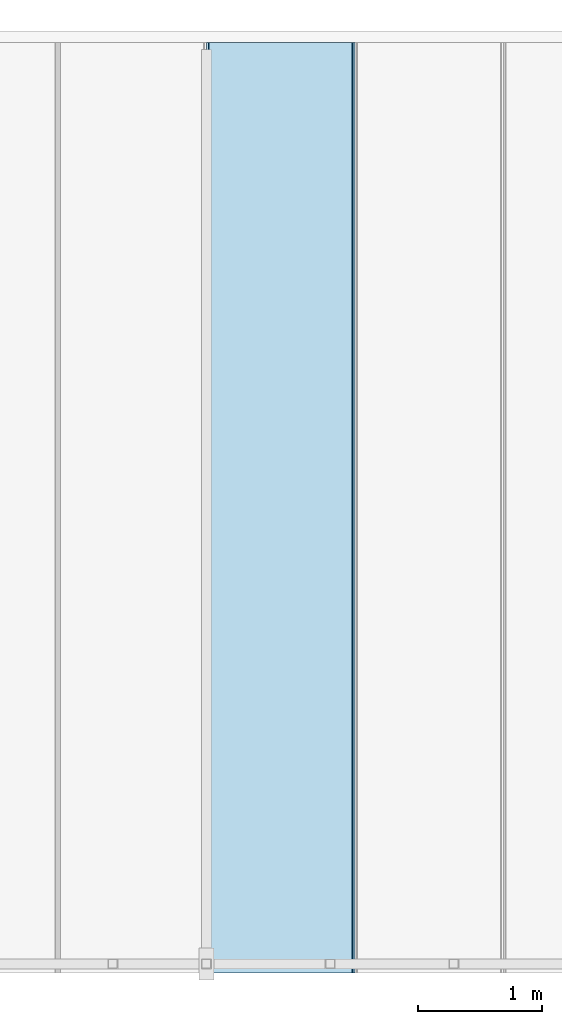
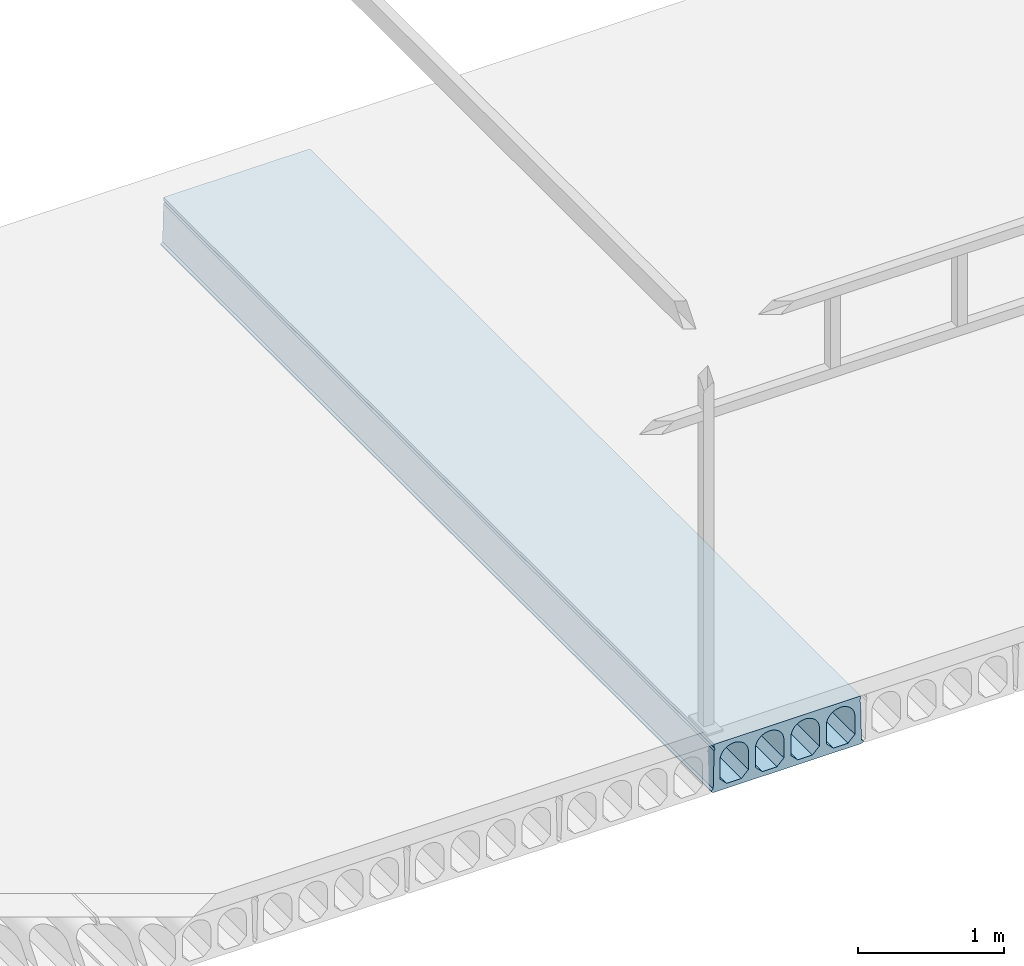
# One storey, part 11 of 20: 1 slab.
"""IFC2X3 building model written with IfcOpenShell, lengths in millimetres."""

from ifc_helpers import new_model, entity, si_unit, converted_unit, derived_unit, direction, frame, origin_with_axes, place, context, subcontext, project, spatial, faceted_brep, type_object, element, save


model = new_model("IFC2X3")

# Units and contexts
model_context = context("Model", 3, precision=0.01, world=frame((0.0, 4.29681676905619e-09, 0.0)), true_north=direction((4.01073788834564e-13, 1.0)))
plan_context = context("Plan", 3, precision=0.01, world=frame((0.0, 4.29681676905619e-09, 0.0)), true_north=direction((4.01073788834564e-13, 1.0)))
body_context = subcontext(model_context, "Body", "Model", "MODEL_VIEW")
ifc_project = project(units=[converted_unit("PLANEANGLEUNIT", "DEGREE", entity("IfcPositiveLengthMeasure", 0.0174532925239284), si_unit("PLANEANGLEUNIT", "RADIAN"), dimensions=[0, 0, 0, 0, 0, 0, 0]), si_unit("AREAUNIT", "SQUARE_METRE"), si_unit("LENGTHUNIT", "METRE", prefix="MILLI"), si_unit("MASSUNIT", "GRAM", prefix="KILO"), si_unit("POWERUNIT", "WATT"), si_unit("PRESSUREUNIT", "PASCAL", prefix="KILO"), si_unit("FORCEUNIT", "NEWTON", prefix="KILO"), si_unit("ELECTRICVOLTAGEUNIT", "VOLT"), si_unit("ELECTRICCURRENTUNIT", "AMPERE"), si_unit("THERMODYNAMICTEMPERATUREUNIT", "DEGREE_CELSIUS"), si_unit("TIMEUNIT", "SECOND"), si_unit("VOLUMEUNIT", "CUBIC_METRE"), derived_unit("LINEARVELOCITYUNIT", [(si_unit("LENGTHUNIT", "METRE"), 1), (si_unit("TIMEUNIT", "SECOND"), -1)]), derived_unit("VOLUMETRICFLOWRATEUNIT", [(si_unit("VOLUMEUNIT", "CUBIC_METRE"), 1), (si_unit("TIMEUNIT", "SECOND"), -1)]), derived_unit("THERMALTRANSMITTANCEUNIT", [(si_unit("POWERUNIT", "WATT"), 1), (si_unit("THERMODYNAMICTEMPERATUREUNIT", "KELVIN"), -1), (si_unit("AREAUNIT", "SQUARE_METRE"), -1)]), derived_unit("SOUNDPRESSUREUNIT", [(si_unit("PRESSUREUNIT", "PASCAL"), 1)])], contexts=[model_context, plan_context])

# Site, building, storey
site_placement = place(None, frame((0.0, -4.29681676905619e-09, 0.0), z_axis=(0.0, 0.0, 1.0), x_axis=(1.0, 0.0, 0.0)))
site = spatial("IfcSite", under=ifc_project, at=site_placement, Name="Gardermoen", CompositionType="ELEMENT")
building_placement = place(site_placement, frame((0.0, 4.29681676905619e-09, 0.0), z_axis=(0.0, 0.0, 1.0), x_axis=(1.0, 0.0, 0.0)))
building = spatial("IfcBuilding", under=site, at=building_placement, Name="TS", CompositionType="ELEMENT")
storey_placement = place(building_placement, origin_with_axes())
storey = spatial("IfcBuildingStorey", under=building, at=storey_placement, Name="D", CompositionType="ELEMENT", Elevation=0.0)

# Slab
slab_type = type_object("IfcSlabType", Name="HD400", PredefinedType="NOTDEFINED")
slab_placement = place(storey_placement, frame((601599.999766, 396739.995625, 203600.0), z_axis=(0.0, 0.0, 1.0), x_axis=(0.0, 1.0, 0.0)))
element("IfcSlab", 1, at=slab_placement, inside=storey, type_object=slab_type, Name="HULLDEKKE", ObjectType="HD400", PredefinedType="FLOOR", context=body_context, shape_type="Brep", body=[
    faceted_brep([(996.504375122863, 600.0, -180.0), (996.504375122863, 600.0, -190.0), (8520.0, 600.0, -190.0), (8520.0, 600.0, -180.0), (996.504375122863, 585.0, -170.0), (8520.0, 585.0, -170.0), (996.504375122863, 577.5, 145.0), (8520.0, 577.5, 145.0), (996.504375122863, 570.0, 160.0), (8520.0, 570.0, 160.0), (996.504375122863, 577.5, 175.0), (8520.0, 577.5, 175.0), (996.504375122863, 577.5, 200.0), (8520.0, 577.5, 200.0), (996.504375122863, -577.5, 200.0), (8520.0, -577.5, 200.0), (996.504375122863, -577.5, 175.0), (8520.0, -577.5, 175.0), (996.504375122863, -570.0, 160.0), (8520.0, -570.0, 160.0), (996.504375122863, -577.5, 145.0), (8520.0, -577.5, 145.0), (996.504375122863, -585.0, -170.0), (8520.0, -585.0, -170.0), (996.504375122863, -600.0, -180.0), (8520.0, -600.0, -180.0), (996.504375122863, -600.0, -190.0), (8520.0, -600.0, -190.0), (996.504375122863, -583.380004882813, -200.0), (8520.0, -583.380004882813, -200.0), (996.504375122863, 583.380004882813, -200.0), (8520.0, 583.380004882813, -200.0), (996.504375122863, -477.5, -160.0), (996.504375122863, -362.5, -160.0), (8520.0, -362.5, -160.0), (8520.0, -477.5, -160.0), (996.504375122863, -532.5, -105.0), (8520.0, -532.5, -105.0), (996.504375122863, -532.5, 47.5), (8520.0, -532.5, 47.5), (996.504375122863, -532.115755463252, 56.7901763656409), (8520.0, -532.115755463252, 56.7901763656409), (996.504375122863, -530.965646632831, 66.0168914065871), (8520.0, -530.965646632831, 66.0168914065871), (996.504375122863, -529.057529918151, 75.1171173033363), (8520.0, -529.057529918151, 75.1171173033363), (996.504375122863, -526.404439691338, 84.028690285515), (8520.0, -526.404439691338, 84.028690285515), (996.504375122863, -523.024499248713, 92.6907352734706), (8520.0, -523.024499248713, 92.6907352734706), (996.504375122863, -518.940797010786, 101.044081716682), (8520.0, -518.940797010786, 101.044081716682), (996.504375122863, -514.181228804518, 109.031667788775), (8520.0, -514.181228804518, 109.031667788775), (996.504375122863, -508.778307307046, 116.598930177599), (8520.0, -508.778307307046, 116.598930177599), (996.504375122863, -502.768939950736, 123.694176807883), (8520.0, -502.768939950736, 123.694176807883), (996.504375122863, -496.194176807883, 130.268939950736), (8520.0, -496.194176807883, 130.268939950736), (996.504375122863, -489.098930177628, 136.278307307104), (8520.0, -489.098930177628, 136.278307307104), (996.504375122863, -481.531667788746, 141.681228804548), (8520.0, -481.531667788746, 141.681228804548), (996.504375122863, -473.544081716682, 146.440797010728), (8520.0, -473.544081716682, 146.440797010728), (996.504375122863, -465.190735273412, 150.524499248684), (8520.0, -465.190735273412, 150.524499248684), (996.504375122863, -456.528690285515, 153.904439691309), (8520.0, -456.528690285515, 153.904439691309), (996.504375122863, -447.617117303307, 156.55752991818), (8520.0, -447.617117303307, 156.55752991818), (996.504375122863, -438.516891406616, 158.465646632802), (8520.0, -438.516891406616, 158.465646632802), (996.504375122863, -429.290176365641, 159.615755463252), (8520.0, -429.290176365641, 159.615755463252), (996.504375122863, -420.0, 160.0), (8520.0, -420.0, 160.0), (996.504375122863, -410.709823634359, 159.615755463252), (8520.0, -410.709823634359, 159.615755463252), (996.504375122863, -401.483108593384, 158.465646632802), (8520.0, -401.483108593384, 158.465646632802), (996.504375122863, -392.382882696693, 156.55752991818), (8520.0, -392.382882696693, 156.55752991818), (996.504375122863, -383.471309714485, 153.904439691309), (8520.0, -383.471309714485, 153.904439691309), (996.504375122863, -374.809264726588, 150.524499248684), (8520.0, -374.809264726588, 150.524499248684), (996.504375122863, -366.455918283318, 146.440797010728), (8520.0, -366.455918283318, 146.440797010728), (996.504375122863, -358.468332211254, 141.681228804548), (8520.0, -358.468332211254, 141.681228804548), (996.504375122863, -350.901069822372, 136.278307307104), (8520.0, -350.901069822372, 136.278307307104), (996.504375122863, -343.805823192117, 130.268939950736), (8520.0, -343.805823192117, 130.268939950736), (996.504375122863, -337.231060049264, 123.694176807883), (8520.0, -337.231060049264, 123.694176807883), (996.504375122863, -331.221692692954, 116.598930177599), (8520.0, -331.221692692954, 116.598930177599), (996.504375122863, -325.818771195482, 109.031667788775), (8520.0, -325.818771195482, 109.031667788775), (996.504375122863, -321.059202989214, 101.044081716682), (8520.0, -321.059202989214, 101.044081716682), (996.504375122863, -316.975500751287, 92.6907352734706), (8520.0, -316.975500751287, 92.6907352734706), (996.504375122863, -313.595560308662, 84.028690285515), (8520.0, -313.595560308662, 84.028690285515), (996.504375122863, -310.942470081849, 75.1171173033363), (8520.0, -310.942470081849, 75.1171173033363), (996.504375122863, -309.034353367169, 66.0168914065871), (8520.0, -309.034353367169, 66.0168914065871), (996.504375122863, -307.884244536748, 56.7901763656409), (8520.0, -307.884244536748, 56.7901763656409), (996.504375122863, -307.5, 47.5), (8520.0, -307.5, 47.5), (996.504375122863, -307.5, -105.0), (8520.0, -307.5, -105.0), (996.504375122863, -197.5, -160.0), (996.504375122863, -82.5, -160.0), (8520.0, -82.5, -160.0), (8520.0, -197.5, -160.0), (996.504375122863, -252.5, -105.0), (8520.0, -252.5, -105.0), (996.504375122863, -252.5, 47.5), (8520.0, -252.5, 47.5), (996.504375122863, -252.115755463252, 56.7901763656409), (8520.0, -252.115755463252, 56.7901763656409), (996.504375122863, -250.965646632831, 66.0168914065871), (8520.0, -250.965646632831, 66.0168914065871), (996.504375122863, -249.057529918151, 75.1171173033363), (8520.0, -249.057529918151, 75.1171173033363), (996.504375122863, -246.404439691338, 84.028690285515), (8520.0, -246.404439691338, 84.028690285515), (996.504375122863, -243.024499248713, 92.6907352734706), (8520.0, -243.024499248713, 92.6907352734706), (996.504375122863, -238.940797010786, 101.044081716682), (8520.0, -238.940797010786, 101.044081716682), (996.504375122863, -234.181228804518, 109.031667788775), (8520.0, -234.181228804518, 109.031667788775), (996.504375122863, -228.778307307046, 116.598930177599), (8520.0, -228.778307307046, 116.598930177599), (996.504375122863, -222.768939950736, 123.694176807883), (8520.0, -222.768939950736, 123.694176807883), (996.504375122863, -216.194176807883, 130.268939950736), (8520.0, -216.194176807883, 130.268939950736), (996.504375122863, -209.098930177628, 136.278307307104), (8520.0, -209.098930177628, 136.278307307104), (996.504375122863, -201.531667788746, 141.681228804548), (8520.0, -201.531667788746, 141.681228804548), (996.504375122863, -193.544081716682, 146.440797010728), (8520.0, -193.544081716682, 146.440797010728), (996.504375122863, -185.190735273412, 150.524499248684), (8520.0, -185.190735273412, 150.524499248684), (996.504375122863, -176.528690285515, 153.904439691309), (8520.0, -176.528690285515, 153.904439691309), (996.504375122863, -167.617117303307, 156.55752991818), (8520.0, -167.617117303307, 156.55752991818), (996.504375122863, -158.516891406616, 158.465646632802), (8520.0, -158.516891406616, 158.465646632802), (996.504375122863, -149.290176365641, 159.615755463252), (8520.0, -149.290176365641, 159.615755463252), (996.504375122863, -140.0, 160.0), (8520.0, -140.0, 160.0), (996.504375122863, -130.709823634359, 159.615755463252), (8520.0, -130.709823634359, 159.615755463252), (996.504375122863, -121.483108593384, 158.465646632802), (8520.0, -121.483108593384, 158.465646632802), (996.504375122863, -112.382882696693, 156.55752991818), (8520.0, -112.382882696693, 156.55752991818), (996.504375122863, -103.471309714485, 153.904439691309), (8520.0, -103.471309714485, 153.904439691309), (996.504375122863, -94.8092647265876, 150.524499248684), (8520.0, -94.8092647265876, 150.524499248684), (996.504375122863, -86.4559182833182, 146.440797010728), (8520.0, -86.4559182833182, 146.440797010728), (996.504375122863, -78.4683322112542, 141.681228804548), (8520.0, -78.4683322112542, 141.681228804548), (996.504375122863, -70.9010698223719, 136.278307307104), (8520.0, -70.9010698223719, 136.278307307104), (996.504375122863, -63.8058231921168, 130.268939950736), (8520.0, -63.8058231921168, 130.268939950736), (996.504375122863, -57.2310600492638, 123.694176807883), (8520.0, -57.2310600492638, 123.694176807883), (996.504375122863, -51.2216926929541, 116.598930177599), (8520.0, -51.2216926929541, 116.598930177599), (996.504375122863, -45.8187711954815, 109.031667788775), (8520.0, -45.8187711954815, 109.031667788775), (996.504375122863, -41.0592029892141, 101.044081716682), (8520.0, -41.0592029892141, 101.044081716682), (996.504375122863, -36.9755007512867, 92.6907352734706), (8520.0, -36.9755007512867, 92.6907352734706), (996.504375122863, -33.5955603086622, 84.028690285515), (8520.0, -33.5955603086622, 84.028690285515), (996.504375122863, -30.942470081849, 75.1171173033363), (8520.0, -30.942470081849, 75.1171173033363), (996.504375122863, -29.0343533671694, 66.0168914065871), (8520.0, -29.0343533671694, 66.0168914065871), (996.504375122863, -27.8842445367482, 56.7901763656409), (8520.0, -27.8842445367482, 56.7901763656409), (996.504375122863, -27.5, 47.5), (8520.0, -27.5, 47.5), (996.504375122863, -27.5, -105.0), (8520.0, -27.5, -105.0), (996.504375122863, 82.5, -160.0), (996.504375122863, 197.5, -160.0), (8520.0, 197.5, -160.0), (8520.0, 82.5, -160.0), (996.504375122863, 27.5, -105.0), (8520.0, 27.5, -105.0), (996.504375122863, 27.5, 47.5), (8520.0, 27.5, 47.5), (996.504375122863, 27.8842445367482, 56.7901763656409), (8520.0, 27.8842445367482, 56.7901763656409), (996.504375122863, 29.0343533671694, 66.0168914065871), (8520.0, 29.0343533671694, 66.0168914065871), (996.504375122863, 30.942470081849, 75.1171173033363), (8520.0, 30.942470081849, 75.1171173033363), (996.504375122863, 33.5955603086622, 84.028690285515), (8520.0, 33.5955603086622, 84.028690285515), (996.504375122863, 36.9755007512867, 92.6907352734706), (8520.0, 36.9755007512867, 92.6907352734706), (996.504375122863, 41.0592029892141, 101.044081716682), (8520.0, 41.0592029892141, 101.044081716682), (996.504375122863, 45.8187711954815, 109.031667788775), (8520.0, 45.8187711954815, 109.031667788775), (996.504375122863, 51.2216926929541, 116.598930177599), (8520.0, 51.2216926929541, 116.598930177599), (996.504375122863, 57.2310600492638, 123.694176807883), (8520.0, 57.2310600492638, 123.694176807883), (996.504375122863, 63.8058231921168, 130.268939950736), (8520.0, 63.8058231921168, 130.268939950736), (996.504375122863, 70.9010698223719, 136.278307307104), (8520.0, 70.9010698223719, 136.278307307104), (996.504375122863, 78.4683322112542, 141.681228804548), (8520.0, 78.4683322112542, 141.681228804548), (996.504375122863, 86.4559182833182, 146.440797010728), (8520.0, 86.4559182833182, 146.440797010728), (996.504375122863, 94.8092647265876, 150.524499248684), (8520.0, 94.8092647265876, 150.524499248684), (996.504375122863, 103.471309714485, 153.904439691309), (8520.0, 103.471309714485, 153.904439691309), (996.504375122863, 112.382882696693, 156.55752991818), (8520.0, 112.382882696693, 156.55752991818), (996.504375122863, 121.483108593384, 158.465646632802), (8520.0, 121.483108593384, 158.465646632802), (996.504375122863, 130.709823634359, 159.615755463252), (8520.0, 130.709823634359, 159.615755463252), (996.504375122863, 140.0, 160.0), (8520.0, 140.0, 160.0), (996.504375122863, 149.290176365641, 159.615755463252), (8520.0, 149.290176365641, 159.615755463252), (996.504375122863, 158.516891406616, 158.465646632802), (8520.0, 158.516891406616, 158.465646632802), (996.504375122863, 167.617117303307, 156.55752991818), (8520.0, 167.617117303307, 156.55752991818), (996.504375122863, 176.528690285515, 153.904439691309), (8520.0, 176.528690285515, 153.904439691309), (996.504375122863, 185.190735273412, 150.524499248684), (8520.0, 185.190735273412, 150.524499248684), (996.504375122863, 193.544081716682, 146.440797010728), (8520.0, 193.544081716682, 146.440797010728), (996.504375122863, 201.531667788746, 141.681228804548), (8520.0, 201.531667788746, 141.681228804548), (996.504375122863, 209.098930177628, 136.278307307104), (8520.0, 209.098930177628, 136.278307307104), (996.504375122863, 216.194176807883, 130.268939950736), (8520.0, 216.194176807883, 130.268939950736), (996.504375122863, 222.768939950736, 123.694176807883), (8520.0, 222.768939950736, 123.694176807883), (996.504375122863, 228.778307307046, 116.598930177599), (8520.0, 228.778307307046, 116.598930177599), (996.504375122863, 234.181228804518, 109.031667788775), (8520.0, 234.181228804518, 109.031667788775), (996.504375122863, 238.940797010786, 101.044081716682), (8520.0, 238.940797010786, 101.044081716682), (996.504375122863, 243.024499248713, 92.6907352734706), (8520.0, 243.024499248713, 92.6907352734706), (996.504375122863, 246.404439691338, 84.028690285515), (8520.0, 246.404439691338, 84.028690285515), (996.504375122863, 249.057529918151, 75.1171173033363), (8520.0, 249.057529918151, 75.1171173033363), (996.504375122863, 250.965646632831, 66.0168914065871), (8520.0, 250.965646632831, 66.0168914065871), (996.504375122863, 252.115755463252, 56.7901763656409), (8520.0, 252.115755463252, 56.7901763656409), (996.504375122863, 252.5, 47.5), (8520.0, 252.5, 47.5), (996.504375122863, 252.5, -105.0), (8520.0, 252.5, -105.0), (996.504375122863, 362.5, -160.0), (996.504375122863, 477.5, -160.0), (8520.0, 477.5, -160.0), (8520.0, 362.5, -160.0), (996.504375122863, 307.5, -105.0), (8520.0, 307.5, -105.0), (996.504375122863, 307.5, 47.5), (8520.0, 307.5, 47.5), (996.504375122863, 307.884244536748, 56.7901763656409), (8520.0, 307.884244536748, 56.7901763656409), (996.504375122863, 309.034353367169, 66.0168914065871), (8520.0, 309.034353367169, 66.0168914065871), (996.504375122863, 310.942470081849, 75.1171173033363), (8520.0, 310.942470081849, 75.1171173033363), (996.504375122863, 313.595560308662, 84.028690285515), (8520.0, 313.595560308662, 84.028690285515), (996.504375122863, 316.975500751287, 92.6907352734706), (8520.0, 316.975500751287, 92.6907352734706), (996.504375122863, 321.059202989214, 101.044081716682), (8520.0, 321.059202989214, 101.044081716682), (996.504375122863, 325.818771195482, 109.031667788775), (8520.0, 325.818771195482, 109.031667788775), (996.504375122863, 331.221692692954, 116.598930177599), (8520.0, 331.221692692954, 116.598930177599), (996.504375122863, 337.231060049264, 123.694176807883), (8520.0, 337.231060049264, 123.694176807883), (996.504375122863, 343.805823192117, 130.268939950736), (8520.0, 343.805823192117, 130.268939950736), (996.504375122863, 350.901069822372, 136.278307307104), (8520.0, 350.901069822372, 136.278307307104), (996.504375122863, 358.468332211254, 141.681228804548), (8520.0, 358.468332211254, 141.681228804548), (996.504375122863, 366.455918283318, 146.440797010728), (8520.0, 366.455918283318, 146.440797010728), (996.504375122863, 374.809264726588, 150.524499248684), (8520.0, 374.809264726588, 150.524499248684), (996.504375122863, 383.471309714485, 153.904439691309), (8520.0, 383.471309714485, 153.904439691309), (996.504375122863, 392.382882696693, 156.55752991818), (8520.0, 392.382882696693, 156.55752991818), (996.504375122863, 401.483108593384, 158.465646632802), (8520.0, 401.483108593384, 158.465646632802), (996.504375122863, 410.709823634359, 159.615755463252), (8520.0, 410.709823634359, 159.615755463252), (996.504375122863, 420.0, 160.0), (8520.0, 420.0, 160.0), (996.504375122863, 429.290176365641, 159.615755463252), (8520.0, 429.290176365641, 159.615755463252), (996.504375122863, 438.516891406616, 158.465646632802), (8520.0, 438.516891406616, 158.465646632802), (996.504375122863, 447.617117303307, 156.55752991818), (8520.0, 447.617117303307, 156.55752991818), (996.504375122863, 456.528690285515, 153.904439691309), (8520.0, 456.528690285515, 153.904439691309), (996.504375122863, 465.190735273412, 150.524499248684), (8520.0, 465.190735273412, 150.524499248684), (996.504375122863, 473.544081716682, 146.440797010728), (8520.0, 473.544081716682, 146.440797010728), (996.504375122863, 481.531667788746, 141.681228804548), (8520.0, 481.531667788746, 141.681228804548), (996.504375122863, 489.098930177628, 136.278307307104), (8520.0, 489.098930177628, 136.278307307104), (996.504375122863, 496.194176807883, 130.268939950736), (8520.0, 496.194176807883, 130.268939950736), (996.504375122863, 502.768939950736, 123.694176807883), (8520.0, 502.768939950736, 123.694176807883), (996.504375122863, 508.778307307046, 116.598930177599), (8520.0, 508.778307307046, 116.598930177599), (996.504375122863, 514.181228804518, 109.031667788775), (8520.0, 514.181228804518, 109.031667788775), (996.504375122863, 518.940797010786, 101.044081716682), (8520.0, 518.940797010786, 101.044081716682), (996.504375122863, 523.024499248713, 92.6907352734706), (8520.0, 523.024499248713, 92.6907352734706), (996.504375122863, 526.404439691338, 84.028690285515), (8520.0, 526.404439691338, 84.028690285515), (996.504375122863, 529.057529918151, 75.1171173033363), (8520.0, 529.057529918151, 75.1171173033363), (996.504375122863, 530.965646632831, 66.0168914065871), (8520.0, 530.965646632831, 66.0168914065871), (996.504375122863, 532.115755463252, 56.7901763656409), (8520.0, 532.115755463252, 56.7901763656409), (996.504375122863, 532.5, 47.5), (8520.0, 532.5, 47.5), (996.504375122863, 532.5, -105.0), (8520.0, 532.5, -105.0)], [[[0, 1, 2, 3]], [[4, 0, 3, 5]], [[6, 4, 5, 7]], [[8, 6, 7, 9]], [[10, 8, 9, 11]], [[12, 10, 11, 13]], [[14, 12, 13, 15]], [[16, 14, 15, 17]], [[18, 16, 17, 19]], [[20, 18, 19, 21]], [[22, 20, 21, 23]], [[24, 22, 23, 25]], [[26, 24, 25, 27]], [[28, 26, 27, 29]], [[30, 28, 29, 31]], [[1, 30, 31, 2]], [[32, 33, 34, 35]], [[36, 32, 35, 37]], [[38, 36, 37, 39]], [[40, 38, 39, 41]], [[42, 40, 41, 43]], [[44, 42, 43, 45]], [[46, 44, 45, 47]], [[48, 46, 47, 49]], [[50, 48, 49, 51]], [[52, 50, 51, 53]], [[54, 52, 53, 55]], [[56, 54, 55, 57]], [[58, 56, 57, 59]], [[60, 58, 59, 61]], [[62, 60, 61, 63]], [[64, 62, 63, 65]], [[66, 64, 65, 67]], [[68, 66, 67, 69]], [[70, 68, 69, 71]], [[72, 70, 71, 73]], [[74, 72, 73, 75]], [[76, 74, 75, 77]], [[78, 76, 77, 79]], [[80, 78, 79, 81]], [[82, 80, 81, 83]], [[84, 82, 83, 85]], [[86, 84, 85, 87]], [[88, 86, 87, 89]], [[90, 88, 89, 91]], [[92, 90, 91, 93]], [[94, 92, 93, 95]], [[96, 94, 95, 97]], [[98, 96, 97, 99]], [[100, 98, 99, 101]], [[102, 100, 101, 103]], [[104, 102, 103, 105]], [[106, 104, 105, 107]], [[108, 106, 107, 109]], [[110, 108, 109, 111]], [[112, 110, 111, 113]], [[114, 112, 113, 115]], [[116, 114, 115, 117]], [[33, 116, 117, 34]], [[118, 119, 120, 121]], [[122, 118, 121, 123]], [[124, 122, 123, 125]], [[126, 124, 125, 127]], [[128, 126, 127, 129]], [[130, 128, 129, 131]], [[132, 130, 131, 133]], [[134, 132, 133, 135]], [[136, 134, 135, 137]], [[138, 136, 137, 139]], [[140, 138, 139, 141]], [[142, 140, 141, 143]], [[144, 142, 143, 145]], [[146, 144, 145, 147]], [[148, 146, 147, 149]], [[150, 148, 149, 151]], [[152, 150, 151, 153]], [[154, 152, 153, 155]], [[156, 154, 155, 157]], [[158, 156, 157, 159]], [[160, 158, 159, 161]], [[162, 160, 161, 163]], [[164, 162, 163, 165]], [[166, 164, 165, 167]], [[168, 166, 167, 169]], [[170, 168, 169, 171]], [[172, 170, 171, 173]], [[174, 172, 173, 175]], [[176, 174, 175, 177]], [[178, 176, 177, 179]], [[180, 178, 179, 181]], [[182, 180, 181, 183]], [[184, 182, 183, 185]], [[186, 184, 185, 187]], [[188, 186, 187, 189]], [[190, 188, 189, 191]], [[192, 190, 191, 193]], [[194, 192, 193, 195]], [[196, 194, 195, 197]], [[198, 196, 197, 199]], [[200, 198, 199, 201]], [[202, 200, 201, 203]], [[119, 202, 203, 120]], [[204, 205, 206, 207]], [[208, 204, 207, 209]], [[210, 208, 209, 211]], [[212, 210, 211, 213]], [[214, 212, 213, 215]], [[216, 214, 215, 217]], [[218, 216, 217, 219]], [[220, 218, 219, 221]], [[222, 220, 221, 223]], [[224, 222, 223, 225]], [[226, 224, 225, 227]], [[228, 226, 227, 229]], [[230, 228, 229, 231]], [[232, 230, 231, 233]], [[234, 232, 233, 235]], [[236, 234, 235, 237]], [[238, 236, 237, 239]], [[240, 238, 239, 241]], [[242, 240, 241, 243]], [[244, 242, 243, 245]], [[246, 244, 245, 247]], [[248, 246, 247, 249]], [[250, 248, 249, 251]], [[252, 250, 251, 253]], [[254, 252, 253, 255]], [[256, 254, 255, 257]], [[258, 256, 257, 259]], [[260, 258, 259, 261]], [[262, 260, 261, 263]], [[264, 262, 263, 265]], [[266, 264, 265, 267]], [[268, 266, 267, 269]], [[270, 268, 269, 271]], [[272, 270, 271, 273]], [[274, 272, 273, 275]], [[276, 274, 275, 277]], [[278, 276, 277, 279]], [[280, 278, 279, 281]], [[282, 280, 281, 283]], [[284, 282, 283, 285]], [[286, 284, 285, 287]], [[288, 286, 287, 289]], [[205, 288, 289, 206]], [[290, 291, 292, 293]], [[294, 290, 293, 295]], [[296, 294, 295, 297]], [[298, 296, 297, 299]], [[300, 298, 299, 301]], [[302, 300, 301, 303]], [[304, 302, 303, 305]], [[306, 304, 305, 307]], [[308, 306, 307, 309]], [[310, 308, 309, 311]], [[312, 310, 311, 313]], [[314, 312, 313, 315]], [[316, 314, 315, 317]], [[318, 316, 317, 319]], [[320, 318, 319, 321]], [[322, 320, 321, 323]], [[324, 322, 323, 325]], [[326, 324, 325, 327]], [[328, 326, 327, 329]], [[330, 328, 329, 331]], [[332, 330, 331, 333]], [[334, 332, 333, 335]], [[336, 334, 335, 337]], [[338, 336, 337, 339]], [[340, 338, 339, 341]], [[342, 340, 341, 343]], [[344, 342, 343, 345]], [[346, 344, 345, 347]], [[348, 346, 347, 349]], [[350, 348, 349, 351]], [[352, 350, 351, 353]], [[354, 352, 353, 355]], [[356, 354, 355, 357]], [[358, 356, 357, 359]], [[360, 358, 359, 361]], [[362, 360, 361, 363]], [[364, 362, 363, 365]], [[366, 364, 365, 367]], [[368, 366, 367, 369]], [[370, 368, 369, 371]], [[372, 370, 371, 373]], [[374, 372, 373, 375]], [[291, 374, 375, 292]], [[3, 2, 31, 29, 27, 25, 23, 21, 19, 17, 15, 13, 11, 9, 7, 5], [293, 292, 375, 373, 371, 369, 367, 365, 363, 361, 359, 357, 355, 353, 351, 349, 347, 345, 343, 341, 339, 337, 335, 333, 331, 329, 327, 325, 323, 321, 319, 317, 315, 313, 311, 309, 307, 305, 303, 301, 299, 297, 295], [207, 206, 289, 287, 285, 283, 281, 279, 277, 275, 273, 271, 269, 267, 265, 263, 261, 259, 257, 255, 253, 251, 249, 247, 245, 243, 241, 239, 237, 235, 233, 231, 229, 227, 225, 223, 221, 219, 217, 215, 213, 211, 209], [121, 120, 203, 201, 199, 197, 195, 193, 191, 189, 187, 185, 183, 181, 179, 177, 175, 173, 171, 169, 167, 165, 163, 161, 159, 157, 155, 153, 151, 149, 147, 145, 143, 141, 139, 137, 135, 133, 131, 129, 127, 125, 123], [35, 34, 117, 115, 113, 111, 109, 107, 105, 103, 101, 99, 97, 95, 93, 91, 89, 87, 85, 83, 81, 79, 77, 75, 73, 71, 69, 67, 65, 63, 61, 59, 57, 55, 53, 51, 49, 47, 45, 43, 41, 39, 37]], [[4, 6, 8, 10, 12, 14, 16, 18, 20, 22, 24, 26, 28, 30, 1, 0], [36, 38, 40, 42, 44, 46, 48, 50, 52, 54, 56, 58, 60, 62, 64, 66, 68, 70, 72, 74, 76, 78, 80, 82, 84, 86, 88, 90, 92, 94, 96, 98, 100, 102, 104, 106, 108, 110, 112, 114, 116, 33, 32], [122, 124, 126, 128, 130, 132, 134, 136, 138, 140, 142, 144, 146, 148, 150, 152, 154, 156, 158, 160, 162, 164, 166, 168, 170, 172, 174, 176, 178, 180, 182, 184, 186, 188, 190, 192, 194, 196, 198, 200, 202, 119, 118], [208, 210, 212, 214, 216, 218, 220, 222, 224, 226, 228, 230, 232, 234, 236, 238, 240, 242, 244, 246, 248, 250, 252, 254, 256, 258, 260, 262, 264, 266, 268, 270, 272, 274, 276, 278, 280, 282, 284, 286, 288, 205, 204], [294, 296, 298, 300, 302, 304, 306, 308, 310, 312, 314, 316, 318, 320, 322, 324, 326, 328, 330, 332, 334, 336, 338, 340, 342, 344, 346, 348, 350, 352, 354, 356, 358, 360, 362, 364, 366, 368, 370, 372, 374, 291, 290]]], orient=[[False], [False], [False], [False], [False], [False], [False], [False], [False], [False], [False], [False], [False], [False], [False], [False], [False], [False], [False], [False], [False], [False], [False], [False], [False], [False], [False], [False], [False], [False], [False], [False], [False], [False], [False], [False], [False], [False], [False], [False], [False], [False], [False], [False], [False], [False], [False], [False], [False], [False], [False], [False], [False], [False], [False], [False], [False], [False], [False], [False], [False], [False], [False], [False], [False], [False], [False], [False], [False], [False], [False], [False], [False], [False], [False], [False], [False], [False], [False], [False], [False], [False], [False], [False], [False], [False], [False], [False], [False], [False], [False], [False], [False], [False], [False], [False], [False], [False], [False], [False], [False], [False], [False], [False], [False], [False], [False], [False], [False], [False], [False], [False], [False], [False], [False], [False], [False], [False], [False], [False], [False], [False], [False], [False], [False], [False], [False], [False], [False], [False], [False], [False], [False], [False], [False], [False], [False], [False], [False], [False], [False], [False], [False], [False], [False], [False], [False], [False], [False], [False], [False], [False], [False], [False], [False], [False], [False], [False], [False], [False], [False], [False], [False], [False], [False], [False], [False], [False], [False], [False], [False], [False], [False], [False], [False], [False], [False], [False], [False], [False], [False], [False], [False], [False], [False], [False], [False], [False], [False, False, False, False, False], [False, False, False, False, False]]),
])

save(model, "model.ifc")
